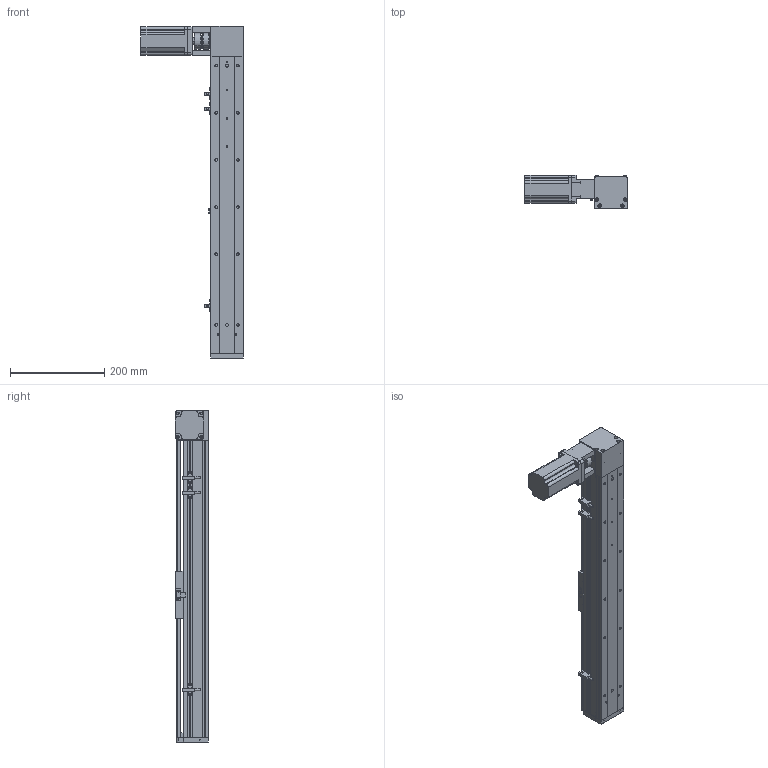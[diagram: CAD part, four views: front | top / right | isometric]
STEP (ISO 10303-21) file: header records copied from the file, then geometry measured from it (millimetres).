
FILE_DESCRIPTION (( 'STEP AP203' ), '1' );
FILE_NAME ('ML68-S450-BL.STEP', '2016-06-01T03:07:01', ( '微软用户' ), ( '微软中国' ), 'SwSTEP 2.0', 'SolidWorks 2014', '' );
FILE_SCHEMA (( 'CONFIG_CONTROL_DESIGN' ));
Length unit declared in the file: millimetre
Products named in the file (12): ML68-菁釱^ML68-S450-BL; ML68傷啣; 換覜ん; 三协电机MH201N2_預設; 联轴器（CS34X32-8X14）_預設; MS68-TS0204鎮湛嘐隅釱_蕼偞; ML68滅鳥啣盓傅輸; ML68-奻裔^ML68-S450-BL; ML68-S450-BL; ML68-BL傷啣; ML68雄赽釱; 60換覜結え
Assembly tree (13 placements, depth 2):
  ML68-S450-BL
    ML68-BL傷啣
    60換覜結え
    ML68-菁釱^ML68-S450-BL
    ML68傷啣
    換覜ん  x3
    三协电机MH201N2_預設
    联轴器（CS34X32-8X14）_預設
    MS68-TS0204鎮湛嘐隅釱_蕼偞
    ML68-奻裔^ML68-S450-BL
    ML68雄赽釱
    ML68滅鳥啣盓傅輸
Bounding box: 216.5 x 70.5 x 704 mm (x, y, z)
Volume: 1482741.1 mm3; surface area: 501539.4 mm2
Topology: 14 solids, 14 shells, 875 faces, 2369 edges, 1499 vertices
Faces by surface type: cylinder 403, plane 360, cone 100, bspline 12
Entity records: 27793 total; most frequent: CARTESIAN_POINT 5547, DIRECTION 4511, ORIENTED_EDGE 4254, EDGE_CURVE 2127, AXIS2_PLACEMENT_3D 1649, VERTEX_POINT 1387, VECTOR 1213, LINE 1213
